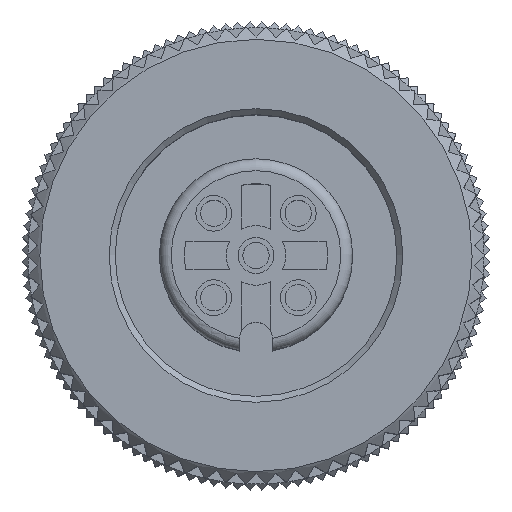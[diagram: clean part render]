
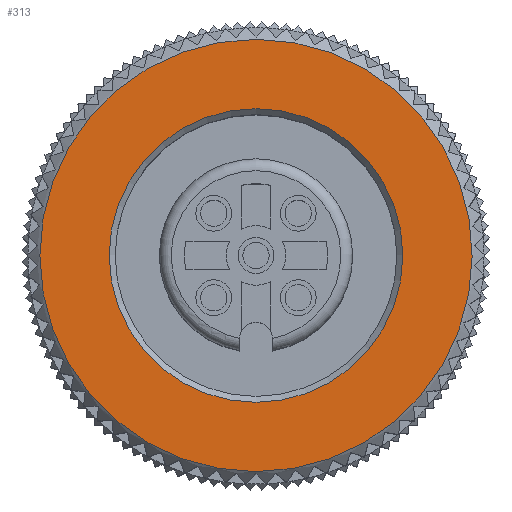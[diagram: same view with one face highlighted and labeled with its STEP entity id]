
A CAD part, top view. The second image highlights one B-rep face of the part: STEP entity #313.
In plain terms, the highlighted planar face has unit normal (0, 0, 1).
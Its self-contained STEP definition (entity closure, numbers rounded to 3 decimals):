
#270=CARTESIAN_POINT('',(6.15,0.,6.2));
#271=VERTEX_POINT('',#270);
#272=CARTESIAN_POINT('',(0.,0.,6.2));
#273=DIRECTION('',(0.0,0.0,1.0));
#274=DIRECTION('',(-1.0,0.0,0.0));
#275=AXIS2_PLACEMENT_3D('',#272,#273,#274);
#276=CIRCLE('',#275,6.15);
#277=EDGE_CURVE('',#271,#271,#276,.T.);
#294=CARTESIAN_POINT('',(0.,0.,6.2));
#295=DIRECTION('',(0.0,0.0,1.0));
#296=DIRECTION('',(1.0,0.0,0.0));
#297=AXIS2_PLACEMENT_3D('',#294,#295,#296);
#298=PLANE('',#297);
#299=CARTESIAN_POINT('',(-9.054,0.,6.2));
#300=VERTEX_POINT('',#299);
#301=CARTESIAN_POINT('',(0.,0.,6.2));
#302=DIRECTION('',(0.0,0.0,-1.0));
#303=DIRECTION('',(1.0,0.0,0.0));
#304=AXIS2_PLACEMENT_3D('',#301,#302,#303);
#305=CIRCLE('',#304,9.054);
#306=EDGE_CURVE('',#300,#300,#305,.T.);
#307=ORIENTED_EDGE('',*,*,#306,.F.);
#308=EDGE_LOOP('',(#307));
#309=FACE_OUTER_BOUND('',#308,.T.);
#310=ORIENTED_EDGE('',*,*,#277,.F.);
#311=EDGE_LOOP('',(#310));
#312=FACE_BOUND('',#311,.T.);
#313=ADVANCED_FACE('',(#309,#312),#298,.T.);
